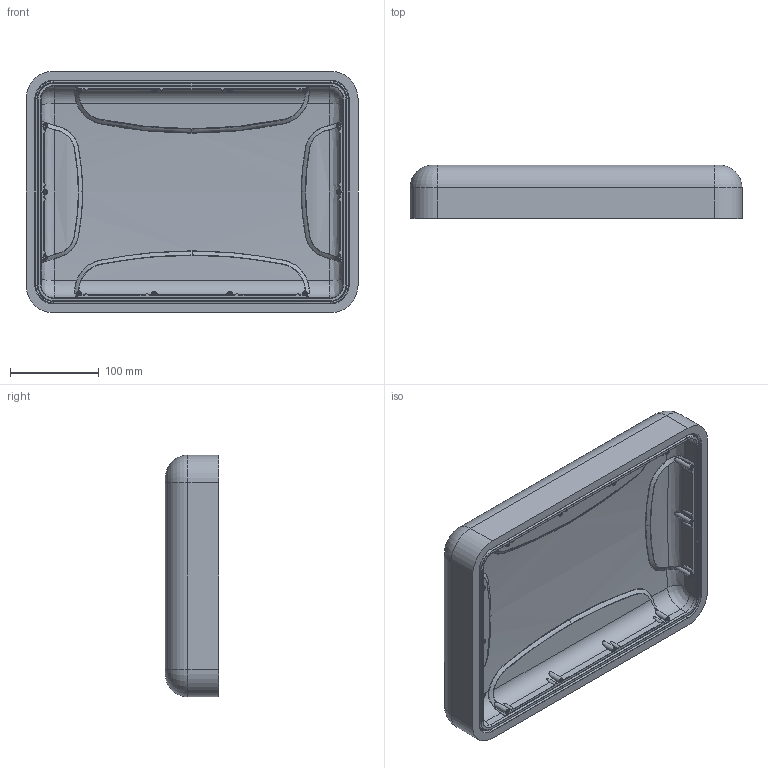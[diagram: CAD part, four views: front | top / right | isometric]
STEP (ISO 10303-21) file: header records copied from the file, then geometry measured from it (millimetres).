
FILE_DESCRIPTION (( 'STEP AP203' ), '1' );
FILE_NAME ('NANUK_910_Top_INNER SURFS_STEP.STEP', '2025-02-17T16:03:09', ( '' ), ( '' ), 'SwSTEP 2.0', 'SolidWorks 2022', '' );
FILE_SCHEMA (( 'CONFIG_CONTROL_DESIGN' ));
Products named in the file (1): NANUK_910_Top_INNER SURFS_STEP
Bounding box: 373.68 x 60 x 272.08 mm (x, y, z)
Volume: 3399931.9 mm3; surface area: 306324.5 mm2
Topology: 1 solids, 1 shells, 943 faces, 2395 edges, 1506 vertices
Faces by surface type: bspline 381, plane 325, cylinder 127, torus 70, cone 40
Entity records: 87190 total; most frequent: CARTESIAN_POINT 67250, ORIENTED_EDGE 4774, DIRECTION 3125, EDGE_CURVE 2387, VERTEX_POINT 1506, AXIS2_PLACEMENT_3D 1043, LINE 1039, VECTOR 1039
